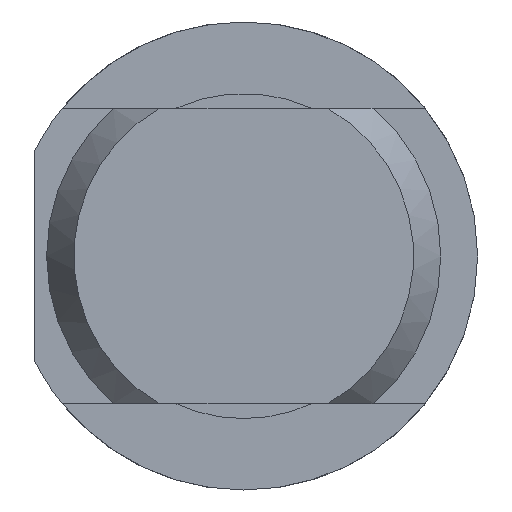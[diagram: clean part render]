
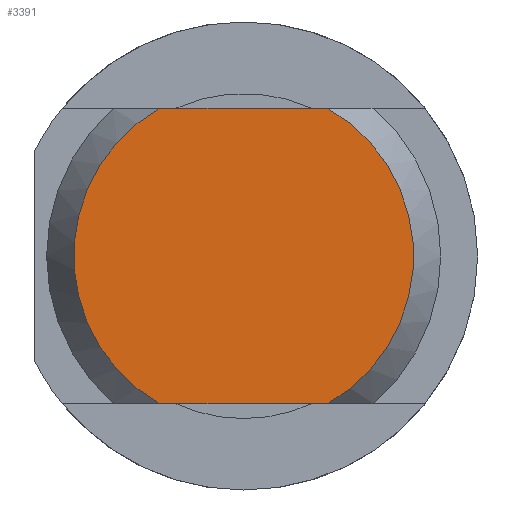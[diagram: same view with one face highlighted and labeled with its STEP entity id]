
A CAD part, left-side view. The second image highlights one B-rep face of the part: STEP entity #3391.
In plain terms, the highlighted planar face has unit normal (-1, 0, 0).
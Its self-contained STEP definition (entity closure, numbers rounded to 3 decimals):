
#172 = CARTESIAN_POINT ( 'NONE',  ( -98.241, 3.407, 6. ) ) ;
#318 = VERTEX_POINT ( 'NONE', #3309 ) ;
#320 = VERTEX_POINT ( 'NONE', #172 ) ;
#514 = FACE_OUTER_BOUND ( 'NONE', #2504, .T. ) ;
#914 = CARTESIAN_POINT ( 'NONE',  ( -98.241, -3.407, 6. ) ) ;
#916 = CARTESIAN_POINT ( 'NONE',  ( -98.241, -3.407, -6. ) ) ;
#1107 = EDGE_CURVE ( 'NONE', #2993, #2990, #3029, .T. ) ;
#1131 = EDGE_CURVE ( 'NONE', #320, #318, #3061, .T. ) ;
#1133 = EDGE_CURVE ( 'NONE', #2993, #318, #3063, .T. ) ;
#1134 = EDGE_CURVE ( 'NONE', #320, #2990, #3055, .T. ) ;
#1236 = AXIS2_PLACEMENT_3D ( 'NONE', #1516, #1524, #1525 ) ;
#1516 = CARTESIAN_POINT ( 'NONE',  ( -98.241, 0., 0. ) ) ;
#1521 = PLANE ( 'NONE',  #1236 ) ;
#1524 = DIRECTION ( 'NONE',  ( -1., 0., 0. ) ) ;
#1525 = DIRECTION ( 'NONE',  ( 0., 0., 1. ) ) ;
#2081 = DIRECTION ( 'NONE',  ( 0., 0., 1. ) ) ;
#2089 = CARTESIAN_POINT ( 'NONE',  ( -98.241, 0., -6. ) ) ;
#2090 = DIRECTION ( 'NONE',  ( 0., 1., 0. ) ) ;
#2091 = CARTESIAN_POINT ( 'NONE',  ( -98.241, 0., 6. ) ) ;
#2092 = DIRECTION ( 'NONE',  ( 0., -1., 0. ) ) ;
#2275 = CARTESIAN_POINT ( 'NONE',  ( -98.241, 0., 0. ) ) ;
#2276 = DIRECTION ( 'NONE',  ( -1., 0., 0. ) ) ;
#2277 = DIRECTION ( 'NONE',  ( 0., 0., 1. ) ) ;
#2339 = CARTESIAN_POINT ( 'NONE',  ( -98.241, 0., 0. ) ) ;
#2340 = DIRECTION ( 'NONE',  ( -1., 0., 0. ) ) ;
#2504 = EDGE_LOOP ( 'NONE', ( #2569, #2570, #2571, #2572 ) ) ;
#2569 = ORIENTED_EDGE ( 'NONE', *, *, #1133, .F. ) ;
#2570 = ORIENTED_EDGE ( 'NONE', *, *, #1107, .T. ) ;
#2571 = ORIENTED_EDGE ( 'NONE', *, *, #1134, .F. ) ;
#2572 = ORIENTED_EDGE ( 'NONE', *, *, #1131, .T. ) ;
#2662 = AXIS2_PLACEMENT_3D ( 'NONE', #2275, #2276, #2277 ) ;
#2670 = AXIS2_PLACEMENT_3D ( 'NONE', #2339, #2340, #2081 ) ;
#2990 = VERTEX_POINT ( 'NONE', #914 ) ;
#2993 = VERTEX_POINT ( 'NONE', #916 ) ;
#3029 = CIRCLE ( 'NONE', #2662, 6.9 ) ;
#3055 = LINE ( 'NONE', #2091, #3067 ) ;
#3061 = CIRCLE ( 'NONE', #2670, 6.9 ) ;
#3063 = LINE ( 'NONE', #2089, #3065 ) ;
#3065 = VECTOR ( 'NONE', #2090, 1000. ) ;
#3067 = VECTOR ( 'NONE', #2092, 1000. ) ;
#3309 = CARTESIAN_POINT ( 'NONE',  ( -98.241, 3.407, -6. ) ) ;
#3391 = ADVANCED_FACE ( 'NONE', ( #514 ), #1521, .T. ) ;
